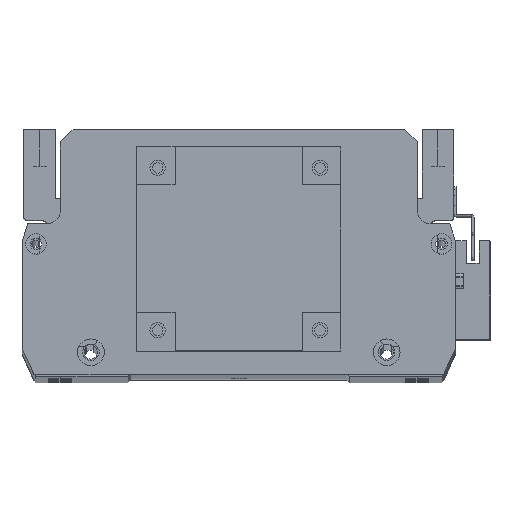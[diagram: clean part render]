
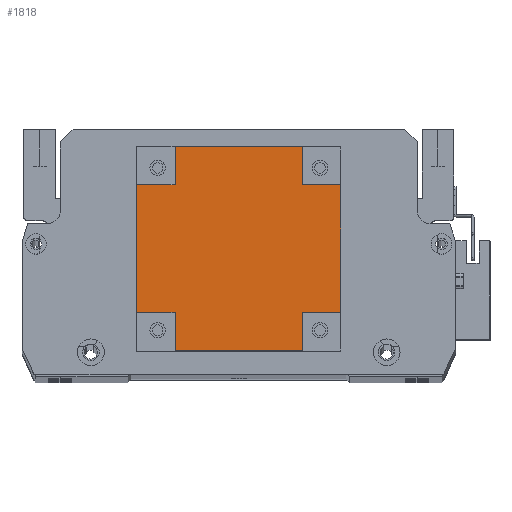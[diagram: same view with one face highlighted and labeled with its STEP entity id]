
A CAD part, top view. The second image highlights one B-rep face of the part: STEP entity #1818.
In plain terms, the highlighted planar face has unit normal (0, 0, 1).
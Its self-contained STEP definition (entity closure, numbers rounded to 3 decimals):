
#623 = VECTOR ( 'NONE', #16981, 1000. ) ;
#748 = CARTESIAN_POINT ( 'NONE',  ( 15., 80., 101.5 ) ) ;
#1084 = VECTOR ( 'NONE', #16396, 1000. ) ;
#1189 = CARTESIAN_POINT ( 'NONE',  ( 65., 80., 101.5 ) ) ;
#1635 = VECTOR ( 'NONE', #5760, 1000. ) ;
#1668 = FACE_OUTER_BOUND ( 'NONE', #7627, .T. ) ;
#1818 = ADVANCED_FACE ( 'NONE', ( #1668 ), #14701, .F. ) ;
#2046 = CARTESIAN_POINT ( 'NONE',  ( 80., 0., 101.5 ) ) ;
#2123 = EDGE_CURVE ( 'NONE', #25521, #22000, #15011, .T. ) ;
#2454 = ORIENTED_EDGE ( 'NONE', *, *, #12055, .F. ) ;
#2781 = LINE ( 'NONE', #27652, #14096 ) ;
#3011 = DIRECTION ( 'NONE',  ( 0., 1., 0. ) ) ;
#3213 = DIRECTION ( 'NONE',  ( 1., 0., 0. ) ) ;
#3438 = DIRECTION ( 'NONE',  ( 0., -1., 0. ) ) ;
#3601 = CARTESIAN_POINT ( 'NONE',  ( 0., 80., 101.5 ) ) ;
#4436 = VECTOR ( 'NONE', #3438, 1000. ) ;
#4583 = ORIENTED_EDGE ( 'NONE', *, *, #26181, .T. ) ;
#5163 = CARTESIAN_POINT ( 'NONE',  ( 0., 65., 101.5 ) ) ;
#5415 = CARTESIAN_POINT ( 'NONE',  ( 65., 15., 101.5 ) ) ;
#5760 = DIRECTION ( 'NONE',  ( -1., 0., 0. ) ) ;
#5860 = VERTEX_POINT ( 'NONE', #18676 ) ;
#6154 = CARTESIAN_POINT ( 'NONE',  ( 15., 15., 101.5 ) ) ;
#6256 = VECTOR ( 'NONE', #23062, 1000. ) ;
#6647 = DIRECTION ( 'NONE',  ( 1., 0., 0. ) ) ;
#6676 = VERTEX_POINT ( 'NONE', #19276 ) ;
#6704 = EDGE_CURVE ( 'NONE', #11725, #9833, #26359, .T. ) ;
#7263 = EDGE_CURVE ( 'NONE', #25521, #9644, #24686, .T. ) ;
#7627 = EDGE_LOOP ( 'NONE', ( #11531, #21976, #9976, #23160, #2454, #25728, #21741, #17547, #18192, #4583, #23391, #15184 ) ) ;
#7736 = VERTEX_POINT ( 'NONE', #5415 ) ;
#7760 = EDGE_CURVE ( 'NONE', #12999, #5860, #21318, .T. ) ;
#7849 = VECTOR ( 'NONE', #24695, 1000. ) ;
#8321 = CARTESIAN_POINT ( 'NONE',  ( 65., 0., 101.5 ) ) ;
#8584 = DIRECTION ( 'NONE',  ( -1., 0., 0. ) ) ;
#9644 = VERTEX_POINT ( 'NONE', #6154 ) ;
#9833 = VERTEX_POINT ( 'NONE', #25733 ) ;
#9976 = ORIENTED_EDGE ( 'NONE', *, *, #6704, .F. ) ;
#10268 = LINE ( 'NONE', #748, #26389 ) ;
#10598 = CARTESIAN_POINT ( 'NONE',  ( 0., 0., 101.5 ) ) ;
#10882 = CARTESIAN_POINT ( 'NONE',  ( 0., 65., 101.5 ) ) ;
#11531 = ORIENTED_EDGE ( 'NONE', *, *, #22697, .T. ) ;
#11725 = VERTEX_POINT ( 'NONE', #5163 ) ;
#11853 = CARTESIAN_POINT ( 'NONE',  ( 15., 0., 101.5 ) ) ;
#12055 = EDGE_CURVE ( 'NONE', #9644, #24944, #16248, .T. ) ;
#12115 = LINE ( 'NONE', #2046, #623 ) ;
#12683 = DIRECTION ( 'NONE',  ( -1., 0., 0. ) ) ;
#12999 = VERTEX_POINT ( 'NONE', #17662 ) ;
#13385 = EDGE_CURVE ( 'NONE', #5860, #20489, #24344, .T. ) ;
#13669 = CARTESIAN_POINT ( 'NONE',  ( 15., 0., 101.5 ) ) ;
#13957 = CARTESIAN_POINT ( 'NONE',  ( 65., 0., 101.5 ) ) ;
#14096 = VECTOR ( 'NONE', #8584, 1000. ) ;
#14359 = VECTOR ( 'NONE', #20212, 1000. ) ;
#14701 = PLANE ( 'NONE',  #25015 ) ;
#14946 = CARTESIAN_POINT ( 'NONE',  ( 15., 80., 101.5 ) ) ;
#15011 = LINE ( 'NONE', #18148, #14359 ) ;
#15184 = ORIENTED_EDGE ( 'NONE', *, *, #7760, .F. ) ;
#16248 = LINE ( 'NONE', #21326, #26764 ) ;
#16396 = DIRECTION ( 'NONE',  ( 0., -1., 0. ) ) ;
#16981 = DIRECTION ( 'NONE',  ( 0., 1., 0. ) ) ;
#17455 = VECTOR ( 'NONE', #3213, 1000. ) ;
#17526 = LINE ( 'NONE', #22601, #1084 ) ;
#17547 = ORIENTED_EDGE ( 'NONE', *, *, #17644, .F. ) ;
#17644 = EDGE_CURVE ( 'NONE', #7736, #22000, #22418, .T. ) ;
#17662 = CARTESIAN_POINT ( 'NONE',  ( 65., 80., 101.5 ) ) ;
#18148 = CARTESIAN_POINT ( 'NONE',  ( 0., 0., 101.5 ) ) ;
#18158 = VECTOR ( 'NONE', #6647, 1000. ) ;
#18192 = ORIENTED_EDGE ( 'NONE', *, *, #25730, .F. ) ;
#18260 = CARTESIAN_POINT ( 'NONE',  ( 0., 15., 101.5 ) ) ;
#18676 = CARTESIAN_POINT ( 'NONE',  ( 65., 65., 101.5 ) ) ;
#18697 = LINE ( 'NONE', #3601, #1635 ) ;
#19077 = EDGE_CURVE ( 'NONE', #9833, #22295, #10268, .T. ) ;
#19274 = EDGE_CURVE ( 'NONE', #11725, #24944, #17526, .T. ) ;
#19276 = CARTESIAN_POINT ( 'NONE',  ( 80., 15., 101.5 ) ) ;
#20107 = CARTESIAN_POINT ( 'NONE',  ( 80., 65., 101.5 ) ) ;
#20212 = DIRECTION ( 'NONE',  ( 1., 0., 0. ) ) ;
#20489 = VERTEX_POINT ( 'NONE', #20107 ) ;
#21318 = LINE ( 'NONE', #1189, #4436 ) ;
#21326 = CARTESIAN_POINT ( 'NONE',  ( 0., 15., 101.5 ) ) ;
#21741 = ORIENTED_EDGE ( 'NONE', *, *, #2123, .T. ) ;
#21976 = ORIENTED_EDGE ( 'NONE', *, *, #19077, .F. ) ;
#22000 = VERTEX_POINT ( 'NONE', #13957 ) ;
#22295 = VERTEX_POINT ( 'NONE', #14946 ) ;
#22418 = LINE ( 'NONE', #8321, #6256 ) ;
#22601 = CARTESIAN_POINT ( 'NONE',  ( 0., 0., 101.5 ) ) ;
#22697 = EDGE_CURVE ( 'NONE', #12999, #22295, #18697, .T. ) ;
#23062 = DIRECTION ( 'NONE',  ( 0., -1., 0. ) ) ;
#23160 = ORIENTED_EDGE ( 'NONE', *, *, #19274, .T. ) ;
#23391 = ORIENTED_EDGE ( 'NONE', *, *, #13385, .F. ) ;
#24344 = LINE ( 'NONE', #24444, #17455 ) ;
#24444 = CARTESIAN_POINT ( 'NONE',  ( 65., 65., 101.5 ) ) ;
#24686 = LINE ( 'NONE', #13669, #7849 ) ;
#24695 = DIRECTION ( 'NONE',  ( 0., 1., 0. ) ) ;
#24944 = VERTEX_POINT ( 'NONE', #18260 ) ;
#25015 = AXIS2_PLACEMENT_3D ( 'NONE', #10598, #25311, #12683 ) ;
#25311 = DIRECTION ( 'NONE',  ( 0., 0., -1. ) ) ;
#25521 = VERTEX_POINT ( 'NONE', #11853 ) ;
#25577 = DIRECTION ( 'NONE',  ( -1., 0., 0. ) ) ;
#25728 = ORIENTED_EDGE ( 'NONE', *, *, #7263, .F. ) ;
#25730 = EDGE_CURVE ( 'NONE', #6676, #7736, #2781, .T. ) ;
#25733 = CARTESIAN_POINT ( 'NONE',  ( 15., 65., 101.5 ) ) ;
#26181 = EDGE_CURVE ( 'NONE', #6676, #20489, #12115, .T. ) ;
#26359 = LINE ( 'NONE', #10882, #18158 ) ;
#26389 = VECTOR ( 'NONE', #3011, 1000. ) ;
#26764 = VECTOR ( 'NONE', #25577, 1000. ) ;
#27652 = CARTESIAN_POINT ( 'NONE',  ( 80., 15., 101.5 ) ) ;
